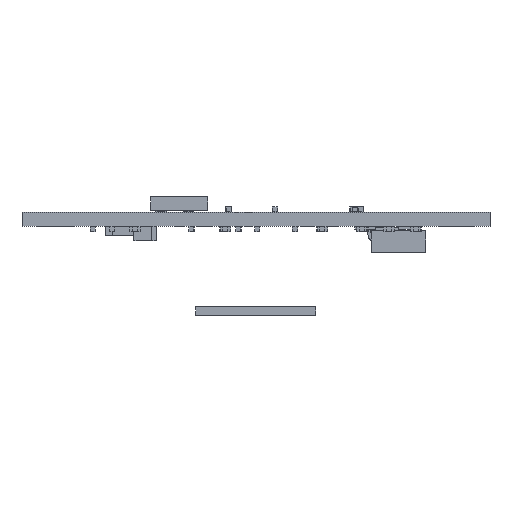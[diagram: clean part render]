
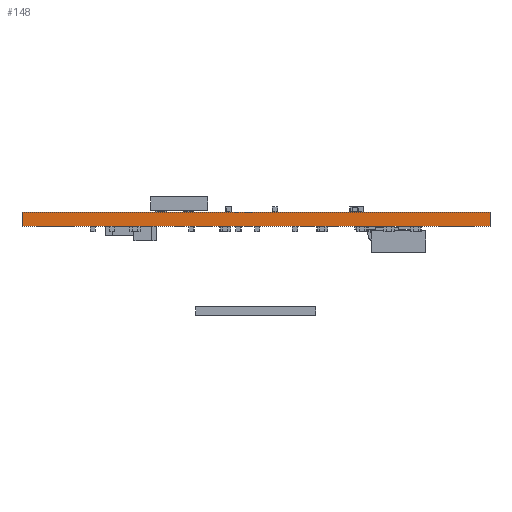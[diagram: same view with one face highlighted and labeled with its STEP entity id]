
A CAD part, front view. The second image highlights one B-rep face of the part: STEP entity #148.
In plain terms, the highlighted planar face has unit normal (0, -1, 0).
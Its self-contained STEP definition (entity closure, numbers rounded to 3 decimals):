
#148 = ADVANCED_FACE('',(#149),#163,.F.);
#149 = FACE_BOUND('',#150,.F.);
#150 = EDGE_LOOP('',(#151,#186,#214,#242));
#151 = ORIENTED_EDGE('',*,*,#152,.T.);
#152 = EDGE_CURVE('',#153,#155,#157,.T.);
#153 = VERTEX_POINT('',#154);
#154 = CARTESIAN_POINT('',(0.,0.,0.));
#155 = VERTEX_POINT('',#156);
#156 = CARTESIAN_POINT('',(0.,0.,0.798));
#157 = SURFACE_CURVE('',#158,(#162,#174),.PCURVE_S1.);
#158 = LINE('',#159,#160);
#159 = CARTESIAN_POINT('',(0.,0.,0.));
#160 = VECTOR('',#161,1.);
#161 = DIRECTION('',(0.,0.,1.));
#162 = PCURVE('',#163,#168);
#163 = PLANE('',#164);
#164 = AXIS2_PLACEMENT_3D('',#165,#166,#167);
#165 = CARTESIAN_POINT('',(0.,0.,0.));
#166 = DIRECTION('',(0.,1.,0.));
#167 = DIRECTION('',(1.,0.,0.));
#168 = DEFINITIONAL_REPRESENTATION('',(#169),#173);
#169 = LINE('',#170,#171);
#170 = CARTESIAN_POINT('',(0.,0.));
#171 = VECTOR('',#172,1.);
#172 = DIRECTION('',(0.,-1.));
#173 = ( GEOMETRIC_REPRESENTATION_CONTEXT(2) 
PARAMETRIC_REPRESENTATION_CONTEXT() REPRESENTATION_CONTEXT('2D SPACE',''
  ) );
#174 = PCURVE('',#175,#180);
#175 = PLANE('',#176);
#176 = AXIS2_PLACEMENT_3D('',#177,#178,#179);
#177 = CARTESIAN_POINT('',(0.,29.22,0.));
#178 = DIRECTION('',(1.,0.,0.));
#179 = DIRECTION('',(0.,-1.,0.));
#180 = DEFINITIONAL_REPRESENTATION('',(#181),#185);
#181 = LINE('',#182,#183);
#182 = CARTESIAN_POINT('',(29.22,0.));
#183 = VECTOR('',#184,1.);
#184 = DIRECTION('',(0.,-1.));
#185 = ( GEOMETRIC_REPRESENTATION_CONTEXT(2) 
PARAMETRIC_REPRESENTATION_CONTEXT() REPRESENTATION_CONTEXT('2D SPACE',''
  ) );
#186 = ORIENTED_EDGE('',*,*,#187,.T.);
#187 = EDGE_CURVE('',#155,#188,#190,.T.);
#188 = VERTEX_POINT('',#189);
#189 = CARTESIAN_POINT('',(26.245,0.,0.798));
#190 = SURFACE_CURVE('',#191,(#195,#202),.PCURVE_S1.);
#191 = LINE('',#192,#193);
#192 = CARTESIAN_POINT('',(0.,0.,0.798));
#193 = VECTOR('',#194,1.);
#194 = DIRECTION('',(1.,0.,0.));
#195 = PCURVE('',#163,#196);
#196 = DEFINITIONAL_REPRESENTATION('',(#197),#201);
#197 = LINE('',#198,#199);
#198 = CARTESIAN_POINT('',(0.,-0.798));
#199 = VECTOR('',#200,1.);
#200 = DIRECTION('',(1.,0.));
#201 = ( GEOMETRIC_REPRESENTATION_CONTEXT(2) 
PARAMETRIC_REPRESENTATION_CONTEXT() REPRESENTATION_CONTEXT('2D SPACE',''
  ) );
#202 = PCURVE('',#203,#208);
#203 = PLANE('',#204);
#204 = AXIS2_PLACEMENT_3D('',#205,#206,#207);
#205 = CARTESIAN_POINT('',(0.,0.,0.798));
#206 = DIRECTION('',(0.,0.,-1.));
#207 = DIRECTION('',(-1.,0.,0.));
#208 = DEFINITIONAL_REPRESENTATION('',(#209),#213);
#209 = LINE('',#210,#211);
#210 = CARTESIAN_POINT('',(0.,0.));
#211 = VECTOR('',#212,1.);
#212 = DIRECTION('',(-1.,0.));
#213 = ( GEOMETRIC_REPRESENTATION_CONTEXT(2) 
PARAMETRIC_REPRESENTATION_CONTEXT() REPRESENTATION_CONTEXT('2D SPACE',''
  ) );
#214 = ORIENTED_EDGE('',*,*,#215,.F.);
#215 = EDGE_CURVE('',#216,#188,#218,.T.);
#216 = VERTEX_POINT('',#217);
#217 = CARTESIAN_POINT('',(26.245,0.,0.));
#218 = SURFACE_CURVE('',#219,(#223,#230),.PCURVE_S1.);
#219 = LINE('',#220,#221);
#220 = CARTESIAN_POINT('',(26.245,0.,0.));
#221 = VECTOR('',#222,1.);
#222 = DIRECTION('',(0.,0.,1.));
#223 = PCURVE('',#163,#224);
#224 = DEFINITIONAL_REPRESENTATION('',(#225),#229);
#225 = LINE('',#226,#227);
#226 = CARTESIAN_POINT('',(26.245,0.));
#227 = VECTOR('',#228,1.);
#228 = DIRECTION('',(0.,-1.));
#229 = ( GEOMETRIC_REPRESENTATION_CONTEXT(2) 
PARAMETRIC_REPRESENTATION_CONTEXT() REPRESENTATION_CONTEXT('2D SPACE',''
  ) );
#230 = PCURVE('',#231,#236);
#231 = PLANE('',#232);
#232 = AXIS2_PLACEMENT_3D('',#233,#234,#235);
#233 = CARTESIAN_POINT('',(26.245,0.,0.));
#234 = DIRECTION('',(-1.,0.,0.));
#235 = DIRECTION('',(0.,1.,0.));
#236 = DEFINITIONAL_REPRESENTATION('',(#237),#241);
#237 = LINE('',#238,#239);
#238 = CARTESIAN_POINT('',(0.,0.));
#239 = VECTOR('',#240,1.);
#240 = DIRECTION('',(0.,-1.));
#241 = ( GEOMETRIC_REPRESENTATION_CONTEXT(2) 
PARAMETRIC_REPRESENTATION_CONTEXT() REPRESENTATION_CONTEXT('2D SPACE',''
  ) );
#242 = ORIENTED_EDGE('',*,*,#243,.F.);
#243 = EDGE_CURVE('',#153,#216,#244,.T.);
#244 = SURFACE_CURVE('',#245,(#249,#256),.PCURVE_S1.);
#245 = LINE('',#246,#247);
#246 = CARTESIAN_POINT('',(0.,0.,0.));
#247 = VECTOR('',#248,1.);
#248 = DIRECTION('',(1.,0.,0.));
#249 = PCURVE('',#163,#250);
#250 = DEFINITIONAL_REPRESENTATION('',(#251),#255);
#251 = LINE('',#252,#253);
#252 = CARTESIAN_POINT('',(0.,0.));
#253 = VECTOR('',#254,1.);
#254 = DIRECTION('',(1.,0.));
#255 = ( GEOMETRIC_REPRESENTATION_CONTEXT(2) 
PARAMETRIC_REPRESENTATION_CONTEXT() REPRESENTATION_CONTEXT('2D SPACE',''
  ) );
#256 = PCURVE('',#257,#262);
#257 = PLANE('',#258);
#258 = AXIS2_PLACEMENT_3D('',#259,#260,#261);
#259 = CARTESIAN_POINT('',(0.,0.,0.));
#260 = DIRECTION('',(0.,0.,-1.));
#261 = DIRECTION('',(-1.,0.,0.));
#262 = DEFINITIONAL_REPRESENTATION('',(#263),#267);
#263 = LINE('',#264,#265);
#264 = CARTESIAN_POINT('',(0.,0.));
#265 = VECTOR('',#266,1.);
#266 = DIRECTION('',(-1.,0.));
#267 = ( GEOMETRIC_REPRESENTATION_CONTEXT(2) 
PARAMETRIC_REPRESENTATION_CONTEXT() REPRESENTATION_CONTEXT('2D SPACE',''
  ) );
